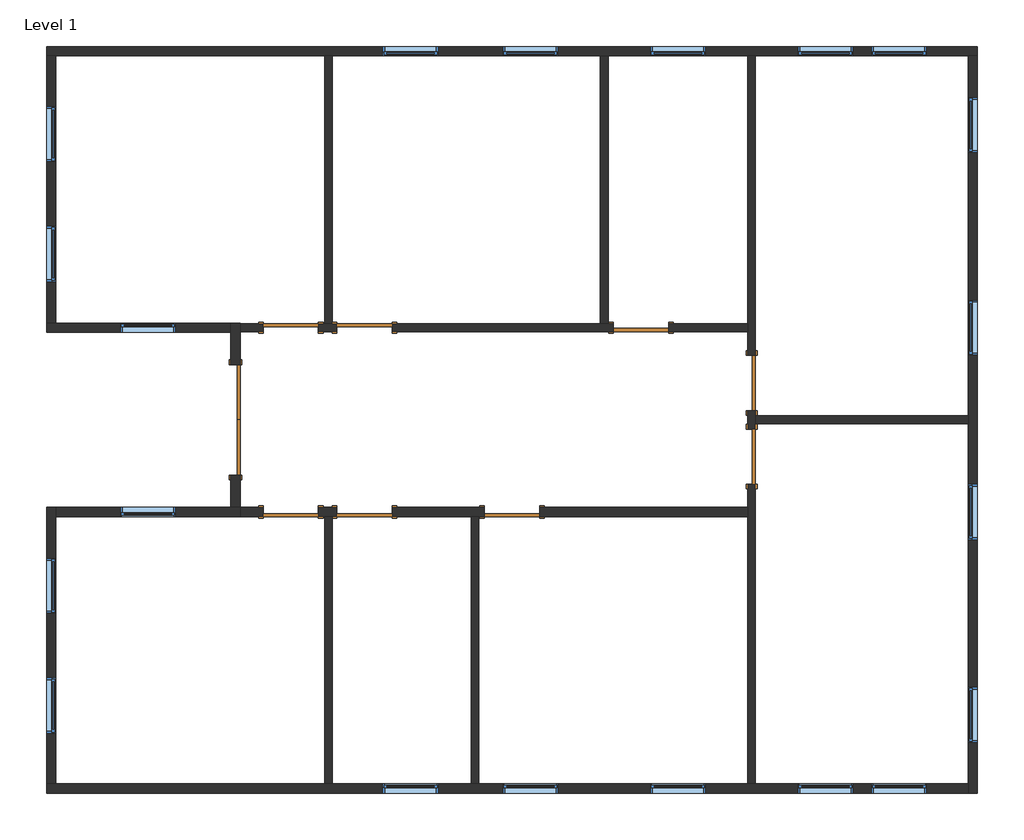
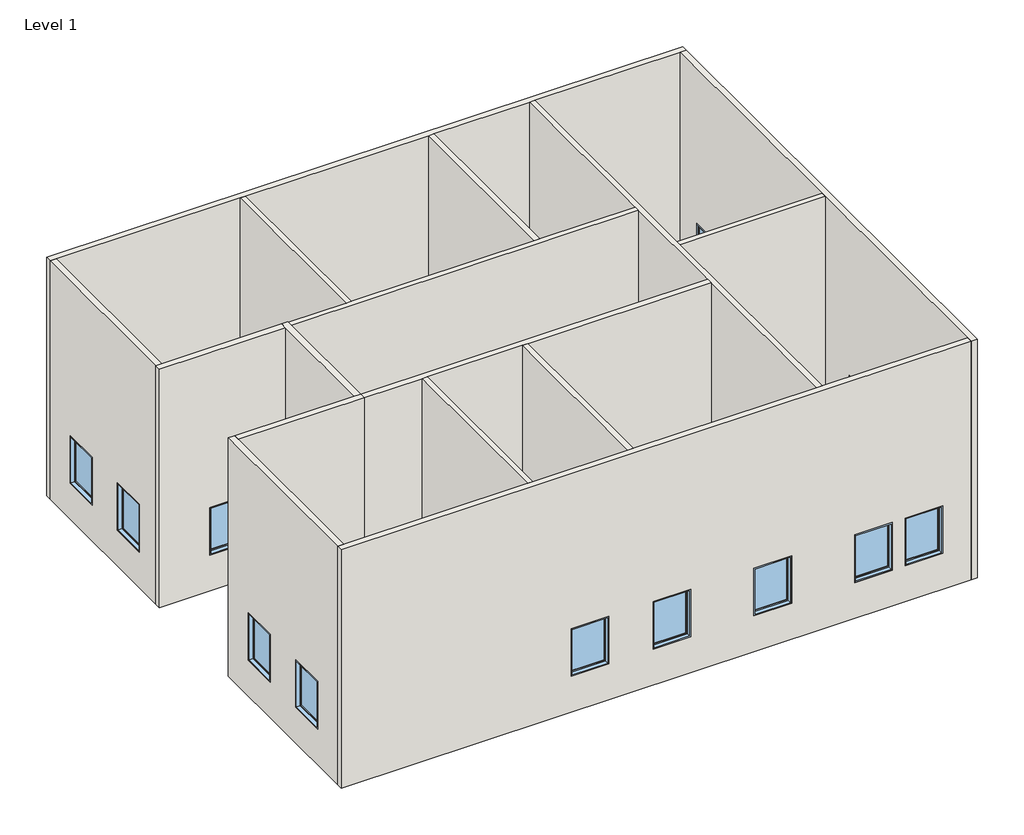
# One storey: 20 windows, 16 walls, 9 doors.
"""IFC4 building model written with IfcOpenShell, lengths in millimetres."""

from ifc_helpers import new_model, si_unit, frame, origin, origin_with_axes, place, context, project, spatial, polyline, outline, extrude, faceted_brep, transform, mapped, element, save
from components import door_28e03101, door_16372e1c, door_686f89d2, door_a1797ceb, door_a3eb833a, window_d657a5cb, window_72989158

model = new_model("IFC4")

# Units and contexts
model_context = context("Model", 3, world=origin())
ifc_project = project(units=[si_unit("LENGTHUNIT", "METRE", prefix="MILLI")], contexts=[model_context])

# Site, building, storey
site = spatial("IfcSite", under=ifc_project)
building = spatial("IfcBuilding", under=site)
storey = spatial("IfcBuildingStorey", under=building, Name="Level 1", Elevation=0.0)

# Doors
placement = place(None, origin())
door_shape = door_28e03101(model_context)
element("IfcDoor", 1, ObjectType="Double-Flush : 72\" x 78\"", at=placement, inside=storey, context=model_context, shape_type="MappedRepresentation", body=[
    mapped(door_shape, transform((-12815.8697058, 5369.3375081, 0.0), x_axis=(0.0, -1.0, 0.0), y_axis=(1.0, 0.0, 0.0), z_axis=(0.0, 0.0, 1.0))),
])
door_2_shape = door_16372e1c(model_context)
element("IfcDoor", 2, ObjectType="Single-Flush : 36\" x 84\"", at=placement, inside=storey, context=model_context, shape_type="MappedRepresentation", body=[
    mapped(door_2_shape, transform((-10682.2697058, 3845.3375081, 0.0), x_axis=(-1.0, 0.0, 0.0), y_axis=(0.0, -1.0, 0.0), z_axis=(0.0, 0.0, 1.0))),
])
element("IfcDoor", 3, ObjectType="Single-Flush : 36\" x 84\"", at=placement, inside=storey, context=model_context, shape_type="MappedRepresentation", body=[
    mapped(door_2_shape, transform((-8243.8697058, 3845.3375081, 0.0), x_axis=(-1.0, 0.0, 0.0), y_axis=(0.0, -1.0, 0.0), z_axis=(0.0, 0.0, 1.0))),
])
door_3_shape = door_686f89d2(model_context)
element("IfcDoor", 4, ObjectType="Single-Flush : 36\" x 84\"", at=placement, inside=storey, context=model_context, shape_type="MappedRepresentation", body=[
    mapped(door_3_shape, transform((-11901.4697058, 3845.3375081, 0.0), x_axis=(1.0, 0.0, 0.0), y_axis=(0.0, 1.0, 0.0), z_axis=(0.0, 0.0, 1.0))),
])
door_4_shape = door_a1797ceb(model_context)
element("IfcDoor", 5, ObjectType="Single-Flush : 36\" x 84\"", at=placement, inside=storey, context=model_context, shape_type="MappedRepresentation", body=[
    mapped(door_4_shape, transform((-11901.4697058, 6893.3375081, 0.0), x_axis=(1.0, 0.0, 0.0), y_axis=(0.0, 1.0, 0.0), z_axis=(0.0, 0.0, 1.0))),
])
element("IfcDoor", 6, ObjectType="Single-Flush : 36\" x 84\"", at=placement, inside=storey, context=model_context, shape_type="MappedRepresentation", body=[
    mapped(door_4_shape, transform((-6110.2697058, 6893.3375081, 0.0), x_axis=(-1.0, 0.0, 0.0), y_axis=(0.0, -1.0, 0.0), z_axis=(0.0, 0.0, 1.0))),
])
element("IfcDoor", 7, ObjectType="Single-Flush : 36\" x 84\"", at=placement, inside=storey, context=model_context, shape_type="MappedRepresentation", body=[
    mapped(door_4_shape, transform((-4281.4697058, 5978.9375081, 0.0), x_axis=(0.0, -1.0, 0.0), y_axis=(1.0, 0.0, 0.0), z_axis=(0.0, 0.0, 1.0))),
])
door_5_shape = door_a3eb833a(model_context)
element("IfcDoor", 8, ObjectType="Single-Flush : 36\" x 84\"", at=placement, inside=storey, context=model_context, shape_type="MappedRepresentation", body=[
    mapped(door_5_shape, transform((-10682.2697058, 6893.3375081, 0.0), x_axis=(-1.0, 0.0, 0.0), y_axis=(0.0, -1.0, 0.0), z_axis=(0.0, 0.0, 1.0))),
])
element("IfcDoor", 9, ObjectType="Single-Flush : 36\" x 84\"", at=placement, inside=storey, context=model_context, shape_type="MappedRepresentation", body=[
    mapped(door_5_shape, transform((-4281.4697058, 4759.7375081, 0.0), x_axis=(0.0, 1.0, 0.0), y_axis=(-1.0, 0.0, 0.0), z_axis=(0.0, 0.0, 1.0))),
])

# Walls
element("IfcWall", 10, ObjectType="Generic - 5\"", at=placement, inside=storey, context=model_context, shape_type="Brep", body=[
    faceted_brep([(-10225.0697058, 6829.8375081, 0.0), (-6567.4697058, 6829.8375081, 0.0), (-6567.4697058, 6829.8375081, 2133.6), (-5653.0697058, 6829.8375081, 2133.6), (-5653.0697058, 6829.8375081, 0.0), (-4344.9697058, 6829.8375081, 0.0), (-4344.9697058, 6829.8375081, 6096.0), (-12739.6697058, 6829.8375081, 6096.0), (-12739.6697058, 6829.8375081, 0.0), (-12358.6697058, 6829.8375081, 0.0), (-12358.6697058, 6829.8375081, 2133.6), (-11444.2697058, 6829.8375081, 2133.6), (-11444.2697058, 6829.8375081, 0.0), (-11139.4697058, 6829.8375081, 0.0), (-11139.4697058, 6829.8375081, 2133.6), (-10225.0697058, 6829.8375081, 2133.6), (-6567.4697058, 6956.8375081, 2133.6), (-6567.4697058, 6956.8375081, 0.0), (-6656.3697058, 6956.8375081, 0.0), (-6783.3697058, 6956.8375081, 0.0), (-10225.0697058, 6956.8375081, 0.0), (-10225.0697058, 6956.8375081, 2133.6), (-11139.4697058, 6956.8375081, 2133.6), (-11139.4697058, 6956.8375081, 0.0), (-11215.6697058, 6956.8375081, 0.0), (-11342.6697058, 6956.8375081, 0.0), (-11444.2697058, 6956.8375081, 0.0), (-11444.2697058, 6956.8375081, 2133.6), (-12358.6697058, 6956.8375081, 2133.6), (-12358.6697058, 6956.8375081, 0.0), (-12739.6697058, 6956.8375081, 0.0), (-12739.6697058, 6956.8375081, 6096.0), (-11342.6697058, 6956.8375081, 6096.0), (-11215.6697058, 6956.8375081, 6096.0), (-6783.3697058, 6956.8375081, 6096.0), (-6656.3697058, 6956.8375081, 6096.0), (-4344.9697058, 6956.8375081, 6096.0), (-4344.9697058, 6956.8375081, 0.0), (-5653.0697058, 6956.8375081, 0.0), (-5653.0697058, 6956.8375081, 2133.6)], [[[0, 1, 2, 3, 4, 5, 6, 7, 8, 9, 10, 11, 12, 13, 14, 15]], [[16, 17, 18, 19, 20, 21, 22, 23, 24, 25, 26, 27, 28, 29, 30, 31, 32, 33, 34, 35, 36, 37, 38, 39]], [[26, 25, 24, 23, 13, 12]], [[9, 8, 30, 29]], [[20, 19, 18, 17, 1, 0]], [[38, 37, 5, 4]], [[7, 6, 36, 35, 34, 33, 32, 31]], [[8, 7, 31, 30]], [[6, 5, 37, 36]], [[27, 26, 12, 11]], [[28, 27, 11, 10]], [[29, 28, 10, 9]], [[14, 13, 23, 22]], [[15, 14, 22, 21]], [[0, 15, 21, 20]], [[2, 1, 17, 16]], [[3, 2, 16, 39]], [[4, 3, 39, 38]]]),
])
element("IfcWall", 11, ObjectType="Generic - 5\"", at=placement, inside=storey, context=model_context, shape_type="Brep", body=[
    faceted_brep([(-4344.9697058, 5521.7375081, 0.0), (-4344.9697058, 5216.9375081, 0.0), (-4344.9697058, 5216.9375081, 2133.6), (-4344.9697058, 4302.5375081, 2133.6), (-4344.9697058, 4302.5375081, 0.0), (-4344.9697058, 3921.5375081, 0.0), (-4344.9697058, 3769.1375081, 0.0), (-4344.9697058, -650.4624919, 0.0), (-4344.9697058, -650.4624919, 6096.0), (-4344.9697058, 3769.1375081, 6096.0), (-4344.9697058, 3921.5375081, 6096.0), (-4344.9697058, 6829.8375081, 6096.0), (-4344.9697058, 6956.8375081, 6096.0), (-4344.9697058, 11389.1375081, 6096.0), (-4344.9697058, 11389.1375081, 0.0), (-4344.9697058, 6956.8375081, 0.0), (-4344.9697058, 6829.8375081, 0.0), (-4344.9697058, 6436.1375081, 0.0), (-4344.9697058, 6436.1375081, 2133.6), (-4344.9697058, 5521.7375081, 2133.6), (-4217.9697058, 5216.9375081, 2133.6), (-4217.9697058, 5216.9375081, 0.0), (-4217.9697058, 5305.8375081, 0.0), (-4217.9697058, 5432.8375081, 0.0), (-4217.9697058, 5521.7375081, 0.0), (-4217.9697058, 5521.7375081, 2133.6), (-4217.9697058, 6436.1375081, 2133.6), (-4217.9697058, 6436.1375081, 0.0), (-4217.9697058, 11389.1375081, 0.0), (-4217.9697058, 11389.1375081, 6096.0), (-4217.9697058, 5432.8375081, 6096.0), (-4217.9697058, 5305.8375081, 6096.0), (-4217.9697058, -650.4624919, 6096.0), (-4217.9697058, -650.4624919, 0.0), (-4217.9697058, 4302.5375081, 0.0), (-4217.9697058, 4302.5375081, 2133.6)], [[[0, 1, 2, 3, 4, 5, 6, 7, 8, 9, 10, 11, 12, 13, 14, 15, 16, 17, 18, 19]], [[20, 21, 22, 23, 24, 25, 26, 27, 28, 29, 30, 31, 32, 33, 34, 35]], [[24, 23, 22, 21, 1, 0]], [[17, 16, 15, 14, 28, 27]], [[34, 33, 7, 6, 5, 4]], [[13, 12, 11, 10, 9, 8, 32, 31, 30, 29]], [[14, 13, 29, 28]], [[8, 7, 33, 32]], [[25, 24, 0, 19]], [[26, 25, 19, 18]], [[27, 26, 18, 17]], [[2, 1, 21, 20]], [[3, 2, 20, 35]], [[4, 3, 35, 34]]]),
])
element("IfcWall", 12, ObjectType="Generic - 5\"", at=placement, inside=storey, context=model_context, shape_type="SweptSolid", body=[
    extrude(outline(polyline([(-11342.6697058, 6956.8375081), (-11342.6697058, 11389.1375081), (-11215.6697058, 11389.1375081), (-11215.6697058, 6956.8375081), (-11342.6697058, 6956.8375081)])), origin_with_axes(), (0.0, 0.0, 1.0), 6096.0),
])
element("IfcWall", 13, ObjectType="Generic - 5\"", at=placement, inside=storey, context=model_context, shape_type="SweptSolid", body=[
    extrude(outline(polyline([(-11342.6697058, -650.4624919), (-11342.6697058, 3769.1375081), (-11215.6697058, 3769.1375081), (-11215.6697058, -650.4624919), (-11342.6697058, -650.4624919)])), origin_with_axes(), (0.0, 0.0, 1.0), 6096.0),
])
element("IfcWall", 14, ObjectType="Generic - 5\"", at=placement, inside=storey, context=model_context, shape_type="SweptSolid", body=[
    extrude(outline(polyline([(-6783.3697058, 6956.8375081), (-6783.3697058, 11389.1375081), (-6656.3697058, 11389.1375081), (-6656.3697058, 6956.8375081), (-6783.3697058, 6956.8375081)])), origin_with_axes(), (0.0, 0.0, 1.0), 6096.0),
])
element("IfcWall", 15, ObjectType="Generic - 5\"", at=placement, inside=storey, context=model_context, shape_type="SweptSolid", body=[
    extrude(outline(polyline([(-8916.9697058, -650.4624919), (-8916.9697058, 3769.1375081), (-8789.9697058, 3769.1375081), (-8789.9697058, -650.4624919), (-8916.9697058, -650.4624919)])), origin_with_axes(), (0.0, 0.0, 1.0), 6096.0),
])
element("IfcWall", 16, ObjectType="Generic - 5\"", at=placement, inside=storey, context=model_context, shape_type="SweptSolid", body=[
    extrude(outline(polyline([(-700.0697058, 5305.8375081), (-4217.9697058, 5305.8375081), (-4217.9697058, 5432.8375081), (-700.0697058, 5432.8375081), (-700.0697058, 5305.8375081)])), origin_with_axes(), (0.0, 0.0, 1.0), 6096.0),
])
element("IfcWall", 17, ObjectType="Generic - 6\"", at=placement, inside=storey, context=model_context, shape_type="Brep", body=[
    faceted_brep([(-15940.0697058, 11389.1375081, 0.0), (-15787.6697058, 11389.1375081, 0.0), (-11342.6697058, 11389.1375081, 0.0), (-11215.6697058, 11389.1375081, 0.0), (-6783.3697058, 11389.1375081, 0.0), (-6656.3697058, 11389.1375081, 0.0), (-4344.9697058, 11389.1375081, 0.0), (-4217.9697058, 11389.1375081, 0.0), (-700.0697058, 11389.1375081, 0.0), (-547.6697058, 11389.1375081, 0.0), (-547.6697058, 11389.1375081, 6096.0), (-700.0697058, 11389.1375081, 6096.0), (-4217.9697058, 11389.1375081, 6096.0), (-4344.9697058, 11389.1375081, 6096.0), (-6656.3697058, 11389.1375081, 6096.0), (-6783.3697058, 11389.1375081, 6096.0), (-11215.6697058, 11389.1375081, 6096.0), (-11342.6697058, 11389.1375081, 6096.0), (-15787.6697058, 11389.1375081, 6096.0), (-15940.0697058, 11389.1375081, 6096.0), (-10377.4697058, 11389.1375081, 2133.6), (-9463.0697058, 11389.1375081, 2133.6), (-9463.0697058, 11389.1375081, 914.4), (-10377.4697058, 11389.1375081, 914.4), (-8396.2697058, 11389.1375081, 2133.6), (-7481.8697058, 11389.1375081, 2133.6), (-7481.8697058, 11389.1375081, 914.4), (-8396.2697058, 11389.1375081, 914.4), (-5957.8697058, 11389.1375081, 2133.6), (-5043.4697058, 11389.1375081, 2133.6), (-5043.4697058, 11389.1375081, 914.4), (-5957.8697058, 11389.1375081, 914.4), (-3519.4697058, 11389.1375081, 2133.6), (-2605.0697058, 11389.1375081, 2133.6), (-2605.0697058, 11389.1375081, 914.4), (-3519.4697058, 11389.1375081, 914.4), (-2300.2697058, 11389.1375081, 2133.6), (-1385.8697058, 11389.1375081, 2133.6), (-1385.8697058, 11389.1375081, 914.4), (-2300.2697058, 11389.1375081, 914.4), (-15940.0697058, 11541.5375081, 0.0), (-15940.0697058, 11541.5375081, 6096.0), (-547.6697058, 11541.5375081, 6096.0), (-547.6697058, 11541.5375081, 0.0), (-10377.4697058, 11541.5375081, 2133.6), (-10377.4697058, 11541.5375081, 914.4), (-9463.0697058, 11541.5375081, 914.4), (-9463.0697058, 11541.5375081, 2133.6), (-8396.2697058, 11541.5375081, 2133.6), (-8396.2697058, 11541.5375081, 914.4), (-7481.8697058, 11541.5375081, 914.4), (-7481.8697058, 11541.5375081, 2133.6), (-5957.8697058, 11541.5375081, 2133.6), (-5957.8697058, 11541.5375081, 914.4), (-5043.4697058, 11541.5375081, 914.4), (-5043.4697058, 11541.5375081, 2133.6), (-3519.4697058, 11541.5375081, 2133.6), (-3519.4697058, 11541.5375081, 914.4), (-2605.0697058, 11541.5375081, 914.4), (-2605.0697058, 11541.5375081, 2133.6), (-2300.2697058, 11541.5375081, 2133.6), (-2300.2697058, 11541.5375081, 914.4), (-1385.8697058, 11541.5375081, 914.4), (-1385.8697058, 11541.5375081, 2133.6)], [[[0, 1, 2, 3, 4, 5, 6, 7, 8, 9, 10, 11, 12, 13, 14, 15, 16, 17, 18, 19], [20, 21, 22, 23], [24, 25, 26, 27], [28, 29, 30, 31], [32, 33, 34, 35], [36, 37, 38, 39]], [[40, 41, 42, 43], [44, 45, 46, 47], [48, 49, 50, 51], [52, 53, 54, 55], [56, 57, 58, 59], [60, 61, 62, 63]], [[9, 8, 7, 6, 5, 4, 3, 2, 1, 0, 40, 43]], [[19, 18, 17, 16, 15, 14, 13, 12, 11, 10, 42, 41]], [[10, 9, 43, 42]], [[0, 19, 41, 40]], [[45, 44, 20, 23]], [[46, 45, 23, 22]], [[47, 46, 22, 21]], [[44, 47, 21, 20]], [[49, 48, 24, 27]], [[50, 49, 27, 26]], [[51, 50, 26, 25]], [[48, 51, 25, 24]], [[53, 52, 28, 31]], [[54, 53, 31, 30]], [[55, 54, 30, 29]], [[52, 55, 29, 28]], [[57, 56, 32, 35]], [[58, 57, 35, 34]], [[59, 58, 34, 33]], [[56, 59, 33, 32]], [[61, 60, 36, 39]], [[62, 61, 39, 38]], [[63, 62, 38, 37]], [[60, 63, 37, 36]]]),
])
element("IfcWall", 18, ObjectType="Generic - 6\"", at=placement, inside=storey, context=model_context, shape_type="Brep", body=[
    faceted_brep([(-700.0697058, 11389.1375081, 0.0), (-700.0697058, 5432.8375081, 0.0), (-700.0697058, 5305.8375081, 0.0), (-700.0697058, -650.4624919, 0.0), (-700.0697058, -802.8624919, 0.0), (-700.0697058, -802.8624919, 6096.0), (-700.0697058, -650.4624919, 6096.0), (-700.0697058, 5305.8375081, 6096.0), (-700.0697058, 5432.8375081, 6096.0), (-700.0697058, 11389.1375081, 6096.0), (-700.0697058, 10703.3375081, 2133.6), (-700.0697058, 9788.9375081, 2133.6), (-700.0697058, 9788.9375081, 914.4), (-700.0697058, 10703.3375081, 914.4), (-700.0697058, 7350.5375081, 2133.6), (-700.0697058, 6436.1375081, 2133.6), (-700.0697058, 6436.1375081, 914.4), (-700.0697058, 7350.5375081, 914.4), (-700.0697058, 35.3375081, 2133.6), (-700.0697058, 35.3375081, 914.4), (-700.0697058, 949.7375081, 914.4), (-700.0697058, 949.7375081, 2133.6), (-700.0697058, 3388.1375081, 2133.6), (-700.0697058, 3388.1375081, 914.4), (-700.0697058, 4302.5375081, 914.4), (-700.0697058, 4302.5375081, 2133.6), (-547.6697058, 11389.1375081, 0.0), (-547.6697058, 11389.1375081, 6096.0), (-547.6697058, -802.8624919, 6096.0), (-547.6697058, -802.8624919, 0.0), (-547.6697058, 10703.3375081, 2133.6), (-547.6697058, 10703.3375081, 914.4), (-547.6697058, 9788.9375081, 914.4), (-547.6697058, 9788.9375081, 2133.6), (-547.6697058, 7350.5375081, 2133.6), (-547.6697058, 7350.5375081, 914.4), (-547.6697058, 6436.1375081, 914.4), (-547.6697058, 6436.1375081, 2133.6), (-547.6697058, 35.3375081, 2133.6), (-547.6697058, 949.7375081, 2133.6), (-547.6697058, 949.7375081, 914.4), (-547.6697058, 35.3375081, 914.4), (-547.6697058, 3388.1375081, 2133.6), (-547.6697058, 4302.5375081, 2133.6), (-547.6697058, 4302.5375081, 914.4), (-547.6697058, 3388.1375081, 914.4)], [[[0, 1, 2, 3, 4, 5, 6, 7, 8, 9], [10, 11, 12, 13], [14, 15, 16, 17], [18, 19, 20, 21], [22, 23, 24, 25]], [[26, 27, 28, 29], [30, 31, 32, 33], [34, 35, 36, 37], [38, 39, 40, 41], [42, 43, 44, 45]], [[4, 3, 2, 1, 0, 26, 29]], [[9, 8, 7, 6, 5, 28, 27]], [[5, 4, 29, 28]], [[0, 9, 27, 26]], [[31, 30, 10, 13]], [[32, 31, 13, 12]], [[33, 32, 12, 11]], [[30, 33, 11, 10]], [[35, 34, 14, 17]], [[36, 35, 17, 16]], [[37, 36, 16, 15]], [[34, 37, 15, 14]], [[19, 18, 38, 41]], [[20, 19, 41, 40]], [[21, 20, 40, 39]], [[18, 21, 39, 38]], [[23, 22, 42, 45]], [[24, 23, 45, 44]], [[25, 24, 44, 43]], [[22, 25, 43, 42]]]),
])
element("IfcWall", 19, ObjectType="Generic - 6\"", at=placement, inside=storey, context=model_context, shape_type="Brep", body=[
    faceted_brep([(-700.0697058, -650.4624919, 0.0), (-4217.9697058, -650.4624919, 0.0), (-4344.9697058, -650.4624919, 0.0), (-8789.9697058, -650.4624919, 0.0), (-8916.9697058, -650.4624919, 0.0), (-11215.6697058, -650.4624919, 0.0), (-11342.6697058, -650.4624919, 0.0), (-15787.6697058, -650.4624919, 0.0), (-15940.0697058, -650.4624919, 0.0), (-15940.0697058, -650.4624919, 6096.0), (-15787.6697058, -650.4624919, 6096.0), (-11342.6697058, -650.4624919, 6096.0), (-11215.6697058, -650.4624919, 6096.0), (-8916.9697058, -650.4624919, 6096.0), (-8789.9697058, -650.4624919, 6096.0), (-4344.9697058, -650.4624919, 6096.0), (-4217.9697058, -650.4624919, 6096.0), (-700.0697058, -650.4624919, 6096.0), (-10377.4697058, -650.4624919, 2133.6), (-10377.4697058, -650.4624919, 914.4), (-9463.0697058, -650.4624919, 914.4), (-9463.0697058, -650.4624919, 2133.6), (-8396.2697058, -650.4624919, 2133.6), (-8396.2697058, -650.4624919, 914.4), (-7481.8697058, -650.4624919, 914.4), (-7481.8697058, -650.4624919, 2133.6), (-5957.8697058, -650.4624919, 2133.6), (-5957.8697058, -650.4624919, 914.4), (-5043.4697058, -650.4624919, 914.4), (-5043.4697058, -650.4624919, 2133.6), (-3519.4697058, -650.4624919, 2133.6), (-3519.4697058, -650.4624919, 914.4), (-2605.0697058, -650.4624919, 914.4), (-2605.0697058, -650.4624919, 2133.6), (-2300.2697058, -650.4624919, 2133.6), (-2300.2697058, -650.4624919, 914.4), (-1385.8697058, -650.4624919, 914.4), (-1385.8697058, -650.4624919, 2133.6), (-700.0697058, -802.8624919, 0.0), (-700.0697058, -802.8624919, 6096.0), (-15940.0697058, -802.8624919, 6096.0), (-15940.0697058, -802.8624919, 0.0), (-10377.4697058, -802.8624919, 2133.6), (-9463.0697058, -802.8624919, 2133.6), (-9463.0697058, -802.8624919, 914.4), (-10377.4697058, -802.8624919, 914.4), (-8396.2697058, -802.8624919, 2133.6), (-7481.8697058, -802.8624919, 2133.6), (-7481.8697058, -802.8624919, 914.4), (-8396.2697058, -802.8624919, 914.4), (-5957.8697058, -802.8624919, 2133.6), (-5043.4697058, -802.8624919, 2133.6), (-5043.4697058, -802.8624919, 914.4), (-5957.8697058, -802.8624919, 914.4), (-3519.4697058, -802.8624919, 2133.6), (-2605.0697058, -802.8624919, 2133.6), (-2605.0697058, -802.8624919, 914.4), (-3519.4697058, -802.8624919, 914.4), (-2300.2697058, -802.8624919, 2133.6), (-1385.8697058, -802.8624919, 2133.6), (-1385.8697058, -802.8624919, 914.4), (-2300.2697058, -802.8624919, 914.4)], [[[0, 1, 2, 3, 4, 5, 6, 7, 8, 9, 10, 11, 12, 13, 14, 15, 16, 17], [18, 19, 20, 21], [22, 23, 24, 25], [26, 27, 28, 29], [30, 31, 32, 33], [34, 35, 36, 37]], [[38, 39, 40, 41], [42, 43, 44, 45], [46, 47, 48, 49], [50, 51, 52, 53], [54, 55, 56, 57], [58, 59, 60, 61]], [[8, 7, 6, 5, 4, 3, 2, 1, 0, 38, 41]], [[17, 16, 15, 14, 13, 12, 11, 10, 9, 40, 39]], [[9, 8, 41, 40]], [[0, 17, 39, 38]], [[19, 18, 42, 45]], [[20, 19, 45, 44]], [[21, 20, 44, 43]], [[18, 21, 43, 42]], [[23, 22, 46, 49]], [[24, 23, 49, 48]], [[25, 24, 48, 47]], [[22, 25, 47, 46]], [[27, 26, 50, 53]], [[28, 27, 53, 52]], [[29, 28, 52, 51]], [[26, 29, 51, 50]], [[31, 30, 54, 57]], [[32, 31, 57, 56]], [[33, 32, 56, 55]], [[30, 33, 55, 54]], [[35, 34, 58, 61]], [[36, 35, 61, 60]], [[37, 36, 60, 59]], [[34, 37, 59, 58]]]),
])
element("IfcWall", 20, ObjectType="Generic - 6\"", at=placement, inside=storey, context=model_context, shape_type="Brep", body=[
    faceted_brep([(-15787.6697058, -650.4624919, 0.0), (-15787.6697058, 3769.1375081, 0.0), (-15787.6697058, 3921.5375081, 0.0), (-15787.6697058, 3921.5375081, 6096.0), (-15787.6697058, 3769.1375081, 6096.0), (-15787.6697058, -650.4624919, 6096.0), (-15787.6697058, 1102.1375081, 2133.6), (-15787.6697058, 1102.1375081, 914.4), (-15787.6697058, 187.7375081, 914.4), (-15787.6697058, 187.7375081, 2133.6), (-15787.6697058, 3083.3375081, 2133.6), (-15787.6697058, 3083.3375081, 914.4), (-15787.6697058, 2168.9375081, 914.4), (-15787.6697058, 2168.9375081, 2133.6), (-15940.0697058, -650.4624919, 0.0), (-15940.0697058, -650.4624919, 6096.0), (-15940.0697058, 3921.5375081, 6096.0), (-15940.0697058, 3921.5375081, 0.0), (-15940.0697058, 1102.1375081, 2133.6), (-15940.0697058, 187.7375081, 2133.6), (-15940.0697058, 187.7375081, 914.4), (-15940.0697058, 1102.1375081, 914.4), (-15940.0697058, 3083.3375081, 2133.6), (-15940.0697058, 2168.9375081, 2133.6), (-15940.0697058, 2168.9375081, 914.4), (-15940.0697058, 3083.3375081, 914.4)], [[[0, 1, 2, 3, 4, 5], [6, 7, 8, 9], [10, 11, 12, 13]], [[14, 15, 16, 17], [18, 19, 20, 21], [22, 23, 24, 25]], [[2, 1, 0, 14, 17]], [[5, 4, 3, 16, 15]], [[3, 2, 17, 16]], [[0, 5, 15, 14]], [[7, 6, 18, 21]], [[8, 7, 21, 20]], [[9, 8, 20, 19]], [[6, 9, 19, 18]], [[11, 10, 22, 25]], [[12, 11, 25, 24]], [[13, 12, 24, 23]], [[10, 13, 23, 22]]]),
])
element("IfcWall", 21, ObjectType="Generic - 6\"", at=placement, inside=storey, context=model_context, shape_type="Brep", body=[
    faceted_brep([(-15787.6697058, 3769.1375081, 0.0), (-12739.6697058, 3769.1375081, 0.0), (-12739.6697058, 3769.1375081, 6096.0), (-15787.6697058, 3769.1375081, 6096.0), (-13806.4697058, 3769.1375081, 2133.6), (-13806.4697058, 3769.1375081, 914.4), (-14720.8697058, 3769.1375081, 914.4), (-14720.8697058, 3769.1375081, 2133.6), (-15787.6697058, 3921.5375081, 0.0), (-15787.6697058, 3921.5375081, 6096.0), (-12892.0697058, 3921.5375081, 6096.0), (-12739.6697058, 3921.5375081, 6096.0), (-12739.6697058, 3921.5375081, 0.0), (-12892.0697058, 3921.5375081, 0.0), (-13806.4697058, 3921.5375081, 2133.6), (-14720.8697058, 3921.5375081, 2133.6), (-14720.8697058, 3921.5375081, 914.4), (-13806.4697058, 3921.5375081, 914.4)], [[[0, 1, 2, 3], [4, 5, 6, 7]], [[8, 9, 10, 11, 12, 13], [14, 15, 16, 17]], [[1, 0, 8, 13, 12]], [[3, 2, 11, 10, 9]], [[2, 1, 12, 11]], [[0, 3, 9, 8]], [[5, 4, 14, 17]], [[6, 5, 17, 16]], [[7, 6, 16, 15]], [[4, 7, 15, 14]]]),
])
element("IfcWall", 22, ObjectType="Generic - 6\"", at=placement, inside=storey, context=model_context, shape_type="Brep", body=[
    faceted_brep([(-12739.6697058, 3921.5375081, 0.0), (-12739.6697058, 4454.9375081, 0.0), (-12739.6697058, 4454.9375081, 1981.2), (-12739.6697058, 6283.7375081, 1981.2), (-12739.6697058, 6283.7375081, 0.0), (-12739.6697058, 6829.8375081, 0.0), (-12739.6697058, 6956.8375081, 0.0), (-12739.6697058, 6969.5375081, 0.0), (-12739.6697058, 6969.5375081, 6096.0), (-12739.6697058, 6956.8375081, 6096.0), (-12739.6697058, 6829.8375081, 6096.0), (-12739.6697058, 3921.5375081, 6096.0), (-12892.0697058, 4454.9375081, 1981.2), (-12892.0697058, 4454.9375081, 0.0), (-12892.0697058, 3921.5375081, 0.0), (-12892.0697058, 3921.5375081, 6096.0), (-12892.0697058, 6817.1375081, 6096.0), (-12892.0697058, 6969.5375081, 6096.0), (-12892.0697058, 6969.5375081, 0.0), (-12892.0697058, 6817.1375081, 0.0), (-12892.0697058, 6283.7375081, 0.0), (-12892.0697058, 6283.7375081, 1981.2)], [[[0, 1, 2, 3, 4, 5, 6, 7, 8, 9, 10, 11]], [[12, 13, 14, 15, 16, 17, 18, 19, 20, 21]], [[14, 13, 1, 0]], [[20, 19, 18, 7, 6, 5, 4]], [[11, 10, 9, 8, 17, 16, 15]], [[8, 7, 18, 17]], [[0, 11, 15, 14]], [[2, 1, 13, 12]], [[3, 2, 12, 21]], [[4, 3, 21, 20]]]),
])
element("IfcWall", 23, ObjectType="Generic - 6\"", at=placement, inside=storey, context=model_context, shape_type="Brep", body=[
    faceted_brep([(-12892.0697058, 6969.5375081, 0.0), (-15787.6697058, 6969.5375081, 0.0), (-15940.0697058, 6969.5375081, 0.0), (-15940.0697058, 6969.5375081, 6096.0), (-15787.6697058, 6969.5375081, 6096.0), (-12892.0697058, 6969.5375081, 6096.0), (-13806.4697058, 6969.5375081, 2133.6), (-14720.8697058, 6969.5375081, 2133.6), (-14720.8697058, 6969.5375081, 914.4), (-13806.4697058, 6969.5375081, 914.4), (-12892.0697058, 6817.1375081, 0.0), (-12892.0697058, 6817.1375081, 6096.0), (-15940.0697058, 6817.1375081, 6096.0), (-15940.0697058, 6817.1375081, 0.0), (-13806.4697058, 6817.1375081, 2133.6), (-13806.4697058, 6817.1375081, 914.4), (-14720.8697058, 6817.1375081, 914.4), (-14720.8697058, 6817.1375081, 2133.6)], [[[0, 1, 2, 3, 4, 5], [6, 7, 8, 9]], [[10, 11, 12, 13], [14, 15, 16, 17]], [[2, 1, 0, 10, 13]], [[5, 4, 3, 12, 11]], [[3, 2, 13, 12]], [[0, 5, 11, 10]], [[15, 14, 6, 9]], [[16, 15, 9, 8]], [[17, 16, 8, 7]], [[14, 17, 7, 6]]]),
])
element("IfcWall", 24, ObjectType="Generic - 6\"", at=placement, inside=storey, context=model_context, shape_type="SweptSolid", body=[
    extrude(outline(polyline([(6969.5375081, 0.0), (6969.5375081, 6096.0), (11389.1375081, 6096.0), (11389.1375081, 0.0), (6969.5375081, 0.0)]), holes=[polyline([(9636.5375081, 2133.6), (9636.5375081, 914.4), (10550.9375081, 914.4), (10550.9375081, 2133.6), (9636.5375081, 2133.6)]), polyline([(7655.3375081, 2133.6), (7655.3375081, 914.4), (8569.7375081, 914.4), (8569.7375081, 2133.6), (7655.3375081, 2133.6)])]), frame((-15940.0697058, 0.0, 0.0), z_axis=(1.0, 0.0, 0.0), x_axis=(0.0, 1.0, 0.0)), (0.0, 0.0, 1.0), 152.4),
])
element("IfcWall", 25, ObjectType="Generic - 6\"", at=placement, inside=storey, context=model_context, shape_type="Brep", body=[
    faceted_brep([(-10225.0697058, 3769.1375081, 0.0), (-8916.9697058, 3769.1375081, 0.0), (-8789.9697058, 3769.1375081, 0.0), (-8701.0697058, 3769.1375081, 0.0), (-8701.0697058, 3769.1375081, 2133.6), (-7786.6697058, 3769.1375081, 2133.6), (-7786.6697058, 3769.1375081, 0.0), (-4344.9697058, 3769.1375081, 0.0), (-4344.9697058, 3769.1375081, 6096.0), (-8789.9697058, 3769.1375081, 6096.0), (-8916.9697058, 3769.1375081, 6096.0), (-11215.6697058, 3769.1375081, 6096.0), (-11342.6697058, 3769.1375081, 6096.0), (-12739.6697058, 3769.1375081, 6096.0), (-12739.6697058, 3769.1375081, 0.0), (-12358.6697058, 3769.1375081, 0.0), (-12358.6697058, 3769.1375081, 2133.6), (-11444.2697058, 3769.1375081, 2133.6), (-11444.2697058, 3769.1375081, 0.0), (-11342.6697058, 3769.1375081, 0.0), (-11215.6697058, 3769.1375081, 0.0), (-11139.4697058, 3769.1375081, 0.0), (-11139.4697058, 3769.1375081, 2133.6), (-10225.0697058, 3769.1375081, 2133.6), (-8701.0697058, 3921.5375081, 2133.6), (-8701.0697058, 3921.5375081, 0.0), (-10225.0697058, 3921.5375081, 0.0), (-10225.0697058, 3921.5375081, 2133.6), (-11139.4697058, 3921.5375081, 2133.6), (-11139.4697058, 3921.5375081, 0.0), (-11444.2697058, 3921.5375081, 0.0), (-11444.2697058, 3921.5375081, 2133.6), (-12358.6697058, 3921.5375081, 2133.6), (-12358.6697058, 3921.5375081, 0.0), (-12739.6697058, 3921.5375081, 0.0), (-12739.6697058, 3921.5375081, 6096.0), (-4344.9697058, 3921.5375081, 6096.0), (-4344.9697058, 3921.5375081, 0.0), (-7786.6697058, 3921.5375081, 0.0), (-7786.6697058, 3921.5375081, 2133.6)], [[[0, 1, 2, 3, 4, 5, 6, 7, 8, 9, 10, 11, 12, 13, 14, 15, 16, 17, 18, 19, 20, 21, 22, 23]], [[24, 25, 26, 27, 28, 29, 30, 31, 32, 33, 34, 35, 36, 37, 38, 39]], [[30, 29, 21, 20, 19, 18]], [[15, 14, 34, 33]], [[26, 25, 3, 2, 1, 0]], [[38, 37, 7, 6]], [[13, 12, 11, 10, 9, 8, 36, 35]], [[14, 13, 35, 34]], [[8, 7, 37, 36]], [[31, 30, 18, 17]], [[32, 31, 17, 16]], [[33, 32, 16, 15]], [[22, 21, 29, 28]], [[23, 22, 28, 27]], [[0, 23, 27, 26]], [[4, 3, 25, 24]], [[5, 4, 24, 39]], [[6, 5, 39, 38]]]),
])

# Windows
window_shape = window_d657a5cb(model_context)
element("IfcWindow", 26, ObjectType="Fixed : 36\" x 48\"", at=placement, inside=storey, context=model_context, shape_type="MappedRepresentation", body=[
    mapped(window_shape, transform((-15863.8697058, 10055.6375081, 0.0), x_axis=(0.0, -1.0, 0.0), y_axis=(1.0, 0.0, 0.0), z_axis=(0.0, 0.0, 1.0))),
])
element("IfcWindow", 27, ObjectType="Fixed : 36\" x 48\"", at=placement, inside=storey, context=model_context, shape_type="MappedRepresentation", body=[
    mapped(window_shape, transform((-9958.3697058, 11465.3375081, 0.0), x_axis=(-1.0, 0.0, 0.0), y_axis=(0.0, -1.0, 0.0), z_axis=(0.0, 0.0, 1.0))),
])
element("IfcWindow", 28, ObjectType="Fixed : 36\" x 48\"", at=placement, inside=storey, context=model_context, shape_type="MappedRepresentation", body=[
    mapped(window_shape, transform((-7977.1697058, 11465.3375081, 0.0), x_axis=(-1.0, 0.0, 0.0), y_axis=(0.0, -1.0, 0.0), z_axis=(0.0, 0.0, 1.0))),
])
element("IfcWindow", 29, ObjectType="Fixed : 36\" x 48\"", at=placement, inside=storey, context=model_context, shape_type="MappedRepresentation", body=[
    mapped(window_shape, transform((-5538.7697058, 11465.3375081, 0.0), x_axis=(-1.0, 0.0, 0.0), y_axis=(0.0, -1.0, 0.0), z_axis=(0.0, 0.0, 1.0))),
])
element("IfcWindow", 30, ObjectType="Fixed : 36\" x 48\"", at=placement, inside=storey, context=model_context, shape_type="MappedRepresentation", body=[
    mapped(window_shape, transform((-3100.3697058, 11465.3375081, 0.0), x_axis=(-1.0, 0.0, 0.0), y_axis=(0.0, -1.0, 0.0), z_axis=(0.0, 0.0, 1.0))),
])
element("IfcWindow", 31, ObjectType="Fixed : 36\" x 48\"", at=placement, inside=storey, context=model_context, shape_type="MappedRepresentation", body=[
    mapped(window_shape, transform((-1881.1697058, 11465.3375081, 0.0), x_axis=(-1.0, 0.0, 0.0), y_axis=(0.0, -1.0, 0.0), z_axis=(0.0, 0.0, 1.0))),
])
element("IfcWindow", 32, ObjectType="Fixed : 36\" x 48\"", at=placement, inside=storey, context=model_context, shape_type="MappedRepresentation", body=[
    mapped(window_shape, transform((-623.8697058, 10284.2375081, 0.0), x_axis=(0.0, 0.9999999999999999, 0.0), y_axis=(-0.9999999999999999, 0.0, 0.0), z_axis=(0.0, 0.0, 1.0))),
])
element("IfcWindow", 33, ObjectType="Fixed : 36\" x 48\"", at=placement, inside=storey, context=model_context, shape_type="MappedRepresentation", body=[
    mapped(window_shape, transform((-623.8697058, 6931.4375081, 0.0), x_axis=(0.0, 0.9999999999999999, 0.0), y_axis=(-0.9999999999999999, 0.0, 0.0), z_axis=(0.0, 0.0, 1.0))),
])
element("IfcWindow", 34, ObjectType="Fixed : 36\" x 48\"", at=placement, inside=storey, context=model_context, shape_type="MappedRepresentation", body=[
    mapped(window_shape, transform((-15863.8697058, 8074.4375081, 0.0), x_axis=(0.0, -1.0, 0.0), y_axis=(1.0, 0.0, 0.0), z_axis=(0.0, 0.0, 1.0))),
])
element("IfcWindow", 35, ObjectType="Fixed : 36\" x 48\"", at=placement, inside=storey, context=model_context, shape_type="MappedRepresentation", body=[
    mapped(window_shape, transform((-14225.5697058, 6893.3375081, 0.0), x_axis=(1.0, 0.0, 0.0), y_axis=(0.0, 1.0, 0.0), z_axis=(0.0, 0.0, 1.0))),
])
window_2_shape = window_72989158(model_context)
element("IfcWindow", 36, ObjectType="Fixed : 36\" x 48\"", at=placement, inside=storey, context=model_context, shape_type="MappedRepresentation", body=[
    mapped(window_2_shape, transform((-15863.8697058, 683.0375081, 0.0), x_axis=(0.0, 1.0, 0.0), y_axis=(-1.0, 0.0, 0.0), z_axis=(0.0, 0.0, 1.0))),
])
element("IfcWindow", 37, ObjectType="Fixed : 36\" x 48\"", at=placement, inside=storey, context=model_context, shape_type="MappedRepresentation", body=[
    mapped(window_2_shape, transform((-9958.3697058, -726.6624919, 0.0), x_axis=(-1.0, 0.0, 0.0), y_axis=(0.0, -1.0, 0.0), z_axis=(0.0, 0.0, 1.0))),
])
element("IfcWindow", 38, ObjectType="Fixed : 36\" x 48\"", at=placement, inside=storey, context=model_context, shape_type="MappedRepresentation", body=[
    mapped(window_2_shape, transform((-7977.1697058, -726.6624919, 0.0), x_axis=(-1.0, 0.0, 0.0), y_axis=(0.0, -1.0, 0.0), z_axis=(0.0, 0.0, 1.0))),
])
element("IfcWindow", 39, ObjectType="Fixed : 36\" x 48\"", at=placement, inside=storey, context=model_context, shape_type="MappedRepresentation", body=[
    mapped(window_2_shape, transform((-5538.7697058, -726.6624919, 0.0), x_axis=(-1.0, 0.0, 0.0), y_axis=(0.0, -1.0, 0.0), z_axis=(0.0, 0.0, 1.0))),
])
element("IfcWindow", 40, ObjectType="Fixed : 36\" x 48\"", at=placement, inside=storey, context=model_context, shape_type="MappedRepresentation", body=[
    mapped(window_2_shape, transform((-3100.3697058, -726.6624919, 0.0), x_axis=(-1.0, 0.0, 0.0), y_axis=(0.0, -1.0, 0.0), z_axis=(0.0, 0.0, 1.0))),
])
element("IfcWindow", 41, ObjectType="Fixed : 36\" x 48\"", at=placement, inside=storey, context=model_context, shape_type="MappedRepresentation", body=[
    mapped(window_2_shape, transform((-1881.1697058, -726.6624919, 0.0), x_axis=(-1.0, 0.0, 0.0), y_axis=(0.0, -1.0, 0.0), z_axis=(0.0, 0.0, 1.0))),
])
element("IfcWindow", 42, ObjectType="Fixed : 36\" x 48\"", at=placement, inside=storey, context=model_context, shape_type="MappedRepresentation", body=[
    mapped(window_2_shape, transform((-623.8697058, 454.4375081, 0.0), x_axis=(0.0, -0.9999999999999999, 0.0), y_axis=(0.9999999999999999, 0.0, 0.0), z_axis=(0.0, 0.0, 1.0))),
])
element("IfcWindow", 43, ObjectType="Fixed : 36\" x 48\"", at=placement, inside=storey, context=model_context, shape_type="MappedRepresentation", body=[
    mapped(window_2_shape, transform((-623.8697058, 3807.2375081, 0.0), x_axis=(0.0, -0.9999999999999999, 0.0), y_axis=(0.9999999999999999, 0.0, 0.0), z_axis=(0.0, 0.0, 1.0))),
])
element("IfcWindow", 44, ObjectType="Fixed : 36\" x 48\"", at=placement, inside=storey, context=model_context, shape_type="MappedRepresentation", body=[
    mapped(window_2_shape, transform((-15863.8697058, 2664.2375081, 0.0), x_axis=(0.0, 1.0, 0.0), y_axis=(-1.0, 0.0, 0.0), z_axis=(0.0, 0.0, 1.0))),
])
element("IfcWindow", 45, ObjectType="Fixed : 36\" x 48\"", at=placement, inside=storey, context=model_context, shape_type="MappedRepresentation", body=[
    mapped(window_2_shape, transform((-14225.5697058, 3845.3375081, 0.0), x_axis=(1.0, 0.0, 0.0), y_axis=(0.0, 1.0, 0.0), z_axis=(0.0, 0.0, 1.0))),
])

save(model, "model.ifc")
